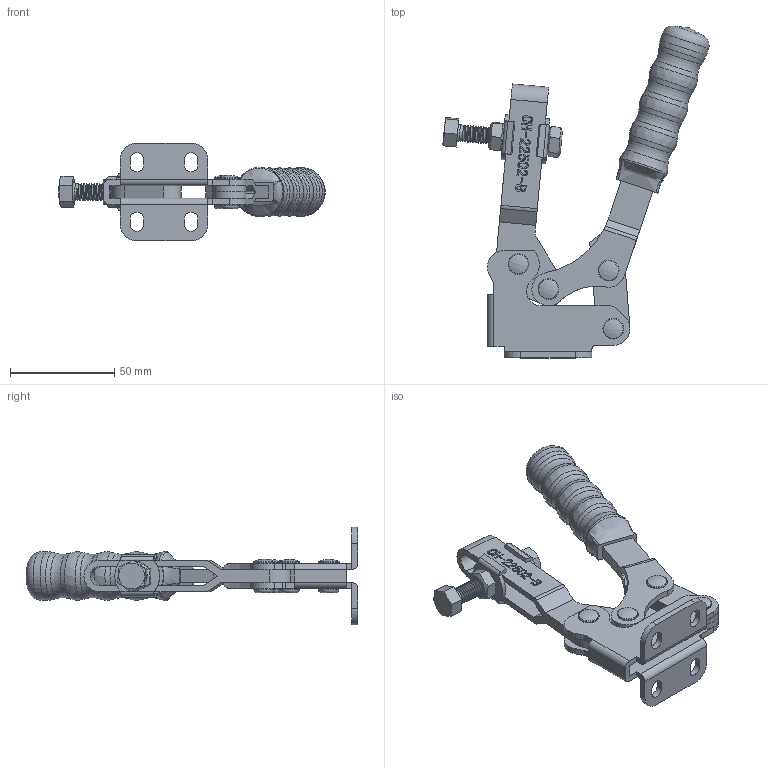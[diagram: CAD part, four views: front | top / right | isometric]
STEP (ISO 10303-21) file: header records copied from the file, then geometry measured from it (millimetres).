
FILE_DESCRIPTION(/* description */ ('STEP AP203'),/* implementation_level */ '2;1');
FILE_NAME(/* name */ 'E:\STRONA\Horizontal toggle clamp\CH-22502-B\CH-22502-B_OTWARTY.stp',/* time_stamp */ '2019-01-15T16:50:58+01:00',/* author */ ('Admin'),/* organization */ ('·L?¤¤?'),/* preprocessor_version */ 'ST-DEVELOPER v17.2',/* originating_system */ 'Autodesk Inventor 2019',/* authorisation */ '');
FILE_SCHEMA (('AUTOMOTIVE_DESIGN { 1 0 10303 214 3 1 1 }'));
Products named in the file (10): CH-22502-B_OTWARTY; FW516___; CH-FC-085012___; 22502-B-04___; 22502-B-06___; 22502-B-05___; 22502-B-03___; 22502-B-01___; 22502-B-02___; M8___
Assembly tree (15 placements, depth 2):
  CH-22502-B_OTWARTY
    FW516___  x2
    22502-B-05___  x4
    CH-FC-085012___
    22502-B-04___  x2
    22502-B-06___
    M8___  x2
    22502-B-03___
    22502-B-01___
    22502-B-02___
Bounding box: 127.78 x 159.23 x 47 mm (x, y, z)
Volume: 75984.3 mm3; surface area: 50425 mm2
Topology: 15 solids, 15 shells, 729 faces, 2016 edges, 1354 vertices
Faces by surface type: plane 309, bspline 220, cylinder 145, torus 26, cone 21, sphere 8
Full cylindrical faces by diameter (mm): 3.2 x1, 4.4 x1, 5 x4, 6.3 x4, 6.4 x14, 6.5 x8, 8 x37, 8.1 x2, 9.803 x4, 10 x4, 23.323 x1
Entity records: 54523 total; most frequent: CARTESIAN_POINT 39004, ORIENTED_EDGE 3578, DIRECTION 2421, EDGE_CURVE 1789, VERTEX_POINT 1197, LINE 965, VECTOR 965, AXIS2_PLACEMENT_3D 728
